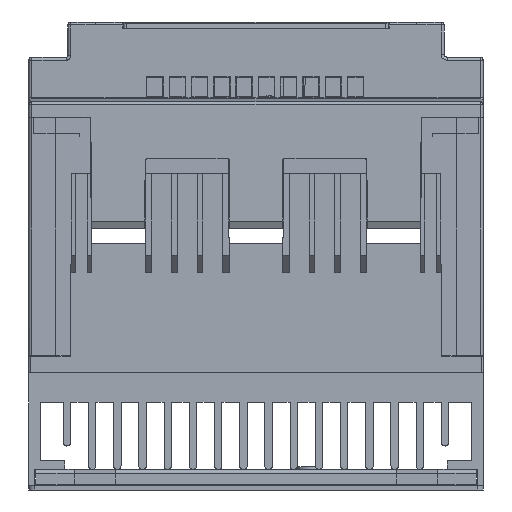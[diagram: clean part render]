
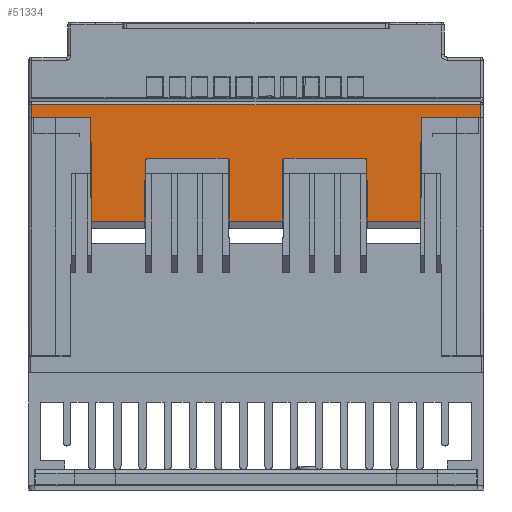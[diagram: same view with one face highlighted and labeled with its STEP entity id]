
A CAD part, front view. The second image highlights one B-rep face of the part: STEP entity #51334.
In plain terms, the highlighted planar face has unit normal (0, -1, 0.007).
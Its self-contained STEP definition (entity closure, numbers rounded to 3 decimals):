
#1702=FACE_OUTER_BOUND('',#4445,.T.);
#4445=EDGE_LOOP('',(#35888,#35889,#35890,#35891,#35892,#35893,#35894,#35895,
#35896,#35897,#35898,#35899,#35900,#35901,#35902,#35903,#35904,#35905,#35906,
#35907,#35908,#35909,#35910,#35911,#35912,#35913));
#7592=ELLIPSE('',#54479,0.5,0.5);
#7593=ELLIPSE('',#54480,0.7,0.7);
#7594=ELLIPSE('',#54481,0.7,0.7);
#7595=ELLIPSE('',#54482,0.7,0.7);
#7596=ELLIPSE('',#54483,0.7,0.7);
#7597=ELLIPSE('',#54484,0.5,0.5);
#9558=LINE('',#76437,#15452);
#9836=LINE('',#77084,#15730);
#9841=LINE('',#77095,#15735);
#9842=LINE('',#77097,#15736);
#9843=LINE('',#77099,#15737);
#9844=LINE('',#77101,#15738);
#9845=LINE('',#77103,#15739);
#9846=LINE('',#77104,#15740);
#9847=LINE('',#77108,#15741);
#9848=LINE('',#77110,#15742);
#9849=LINE('',#77112,#15743);
#9850=LINE('',#77116,#15744);
#9851=LINE('',#77120,#15745);
#9852=LINE('',#77122,#15746);
#9853=LINE('',#77124,#15747);
#9854=LINE('',#77128,#15748);
#9855=LINE('',#77132,#15749);
#9856=LINE('',#77134,#15750);
#9857=LINE('',#77136,#15751);
#9858=LINE('',#77139,#15752);
#15452=VECTOR('',#60923,10.);
#15730=VECTOR('',#61505,11.584);
#15735=VECTOR('',#61514,7.991);
#15736=VECTOR('',#61515,4.54);
#15737=VECTOR('',#61516,153.);
#15738=VECTOR('',#61517,4.54);
#15739=VECTOR('',#61518,7.991);
#15740=VECTOR('',#61519,11.584);
#15741=VECTOR('',#61522,34.576);
#15742=VECTOR('',#61523,18.225);
#15743=VECTOR('',#61524,20.719);
#15744=VECTOR('',#61527,27.297);
#15745=VECTOR('',#61530,20.719);
#15746=VECTOR('',#61531,18.122);
#15747=VECTOR('',#61532,20.719);
#15748=VECTOR('',#61535,27.297);
#15749=VECTOR('',#61538,20.719);
#15750=VECTOR('',#61539,18.225);
#15751=VECTOR('',#61540,34.576);
#15752=VECTOR('',#61543,10.);
#21428=VERTEX_POINT('',#76434);
#21429=VERTEX_POINT('',#76436);
#21645=VERTEX_POINT('',#77082);
#21646=VERTEX_POINT('',#77083);
#21650=VERTEX_POINT('',#77094);
#21651=VERTEX_POINT('',#77096);
#21652=VERTEX_POINT('',#77098);
#21653=VERTEX_POINT('',#77100);
#21654=VERTEX_POINT('',#77102);
#21655=VERTEX_POINT('',#77105);
#21656=VERTEX_POINT('',#77107);
#21657=VERTEX_POINT('',#77109);
#21658=VERTEX_POINT('',#77111);
#21659=VERTEX_POINT('',#77113);
#21660=VERTEX_POINT('',#77115);
#21661=VERTEX_POINT('',#77117);
#21662=VERTEX_POINT('',#77119);
#21663=VERTEX_POINT('',#77121);
#21664=VERTEX_POINT('',#77123);
#21665=VERTEX_POINT('',#77125);
#21666=VERTEX_POINT('',#77127);
#21667=VERTEX_POINT('',#77129);
#21668=VERTEX_POINT('',#77131);
#21669=VERTEX_POINT('',#77133);
#21670=VERTEX_POINT('',#77135);
#21671=VERTEX_POINT('',#77137);
#26669=EDGE_CURVE('',#21429,#21428,#9558,.T.);
#26995=EDGE_CURVE('',#21645,#21646,#9836,.T.);
#27001=EDGE_CURVE('',#21646,#21650,#9841,.T.);
#27002=EDGE_CURVE('',#21651,#21650,#9842,.T.);
#27003=EDGE_CURVE('',#21652,#21651,#9843,.T.);
#27004=EDGE_CURVE('',#21653,#21652,#9844,.T.);
#27005=EDGE_CURVE('',#21654,#21653,#9845,.T.);
#27006=EDGE_CURVE('',#21429,#21654,#9846,.T.);
#27007=EDGE_CURVE('',#21655,#21428,#7592,.T.);
#27008=EDGE_CURVE('',#21656,#21655,#9847,.T.);
#27009=EDGE_CURVE('',#21656,#21657,#9848,.T.);
#27010=EDGE_CURVE('',#21657,#21658,#9849,.T.);
#27011=EDGE_CURVE('',#21659,#21658,#7593,.T.);
#27012=EDGE_CURVE('',#21659,#21660,#9850,.T.);
#27013=EDGE_CURVE('',#21661,#21660,#7594,.T.);
#27014=EDGE_CURVE('',#21662,#21661,#9851,.T.);
#27015=EDGE_CURVE('',#21662,#21663,#9852,.T.);
#27016=EDGE_CURVE('',#21663,#21664,#9853,.T.);
#27017=EDGE_CURVE('',#21665,#21664,#7595,.T.);
#27018=EDGE_CURVE('',#21665,#21666,#9854,.T.);
#27019=EDGE_CURVE('',#21667,#21666,#7596,.T.);
#27020=EDGE_CURVE('',#21668,#21667,#9855,.T.);
#27021=EDGE_CURVE('',#21668,#21669,#9856,.T.);
#27022=EDGE_CURVE('',#21669,#21670,#9857,.T.);
#27023=EDGE_CURVE('',#21671,#21670,#7597,.T.);
#27024=EDGE_CURVE('',#21671,#21645,#9858,.T.);
#35888=ORIENTED_EDGE('',*,*,#26995,.T.);
#35889=ORIENTED_EDGE('',*,*,#27001,.T.);
#35890=ORIENTED_EDGE('',*,*,#27002,.F.);
#35891=ORIENTED_EDGE('',*,*,#27003,.F.);
#35892=ORIENTED_EDGE('',*,*,#27004,.F.);
#35893=ORIENTED_EDGE('',*,*,#27005,.F.);
#35894=ORIENTED_EDGE('',*,*,#27006,.F.);
#35895=ORIENTED_EDGE('',*,*,#26669,.T.);
#35896=ORIENTED_EDGE('',*,*,#27007,.F.);
#35897=ORIENTED_EDGE('',*,*,#27008,.F.);
#35898=ORIENTED_EDGE('',*,*,#27009,.T.);
#35899=ORIENTED_EDGE('',*,*,#27010,.T.);
#35900=ORIENTED_EDGE('',*,*,#27011,.F.);
#35901=ORIENTED_EDGE('',*,*,#27012,.T.);
#35902=ORIENTED_EDGE('',*,*,#27013,.F.);
#35903=ORIENTED_EDGE('',*,*,#27014,.F.);
#35904=ORIENTED_EDGE('',*,*,#27015,.T.);
#35905=ORIENTED_EDGE('',*,*,#27016,.T.);
#35906=ORIENTED_EDGE('',*,*,#27017,.F.);
#35907=ORIENTED_EDGE('',*,*,#27018,.T.);
#35908=ORIENTED_EDGE('',*,*,#27019,.F.);
#35909=ORIENTED_EDGE('',*,*,#27020,.F.);
#35910=ORIENTED_EDGE('',*,*,#27021,.T.);
#35911=ORIENTED_EDGE('',*,*,#27022,.T.);
#35912=ORIENTED_EDGE('',*,*,#27023,.F.);
#35913=ORIENTED_EDGE('',*,*,#27024,.T.);
#46490=PLANE('',#54478);
#51334=ADVANCED_FACE('',(#1702),#46490,.F.);
#54478=AXIS2_PLACEMENT_3D('',#77093,#61512,#61513);
#54479=AXIS2_PLACEMENT_3D('',#77106,#61520,#61521);
#54480=AXIS2_PLACEMENT_3D('',#77114,#61525,#61526);
#54481=AXIS2_PLACEMENT_3D('',#77118,#61528,#61529);
#54482=AXIS2_PLACEMENT_3D('',#77126,#61533,#61534);
#54483=AXIS2_PLACEMENT_3D('',#77130,#61536,#61537);
#54484=AXIS2_PLACEMENT_3D('',#77138,#61541,#61542);
#60923=DIRECTION('',(1.,0.,0.));
#61505=DIRECTION('',(1.,0.,0.));
#61512=DIRECTION('center_axis',(0.,1.,-0.007));
#61513=DIRECTION('ref_axis',(-1.,0.,0.));
#61514=DIRECTION('',(1.,0.,0.));
#61515=DIRECTION('',(0.,-0.009,-1.));
#61516=DIRECTION('',(1.,0.,0.));
#61517=DIRECTION('',(0.,0.009,1.));
#61518=DIRECTION('',(-1.,0.,0.));
#61519=DIRECTION('',(-1.,0.,0.));
#61520=DIRECTION('center_axis',(0.,-1.,0.007));
#61521=DIRECTION('ref_axis',(0.,0.007,1.));
#61522=DIRECTION('',(-0.005,0.007,1.));
#61523=DIRECTION('',(1.,0.,0.));
#61524=DIRECTION('',(0.004,0.007,1.));
#61525=DIRECTION('center_axis',(0.,-1.,0.007));
#61526=DIRECTION('ref_axis',(0.,0.007,1.));
#61527=DIRECTION('',(1.,0.,0.));
#61528=DIRECTION('center_axis',(0.,-1.,0.007));
#61529=DIRECTION('ref_axis',(0.,0.007,1.));
#61530=DIRECTION('',(-0.004,0.007,1.));
#61531=DIRECTION('',(1.,0.,0.));
#61532=DIRECTION('',(0.004,0.007,1.));
#61533=DIRECTION('center_axis',(0.,-1.,0.007));
#61534=DIRECTION('ref_axis',(0.,0.007,1.));
#61535=DIRECTION('',(1.,0.,0.));
#61536=DIRECTION('center_axis',(0.,-1.,0.007));
#61537=DIRECTION('ref_axis',(0.,-0.007,-1.));
#61538=DIRECTION('',(-0.004,0.007,1.));
#61539=DIRECTION('',(1.,0.,0.));
#61540=DIRECTION('',(0.005,0.007,1.));
#61541=DIRECTION('center_axis',(0.,-1.,0.007));
#61542=DIRECTION('ref_axis',(0.,-0.007,-1.));
#61543=DIRECTION('',(1.,0.,0.));
#76434=CARTESIAN_POINT('',(-406.825,-135.067,70.3));
#76436=CARTESIAN_POINT('',(-406.925,-135.074,70.3));
#76437=CARTESIAN_POINT('',(-350.,-135.067,70.3));
#77082=CARTESIAN_POINT('',(-293.075,-135.074,70.3));
#77083=CARTESIAN_POINT('',(-281.491,-135.077,70.3));
#77084=CARTESIAN_POINT('',(-293.075,-135.074,70.3));
#77093=CARTESIAN_POINT('Origin',(-350.,-135.174,54.962));
#77094=CARTESIAN_POINT('',(-273.5,-135.074,70.3));
#77095=CARTESIAN_POINT('',(-281.491,-135.077,70.3));
#77096=CARTESIAN_POINT('',(-273.5,-135.036,74.84));
#77097=CARTESIAN_POINT('',(-273.5,-135.036,74.84));
#77098=CARTESIAN_POINT('',(-426.5,-135.036,74.84));
#77099=CARTESIAN_POINT('',(-426.5,-135.036,74.84));
#77100=CARTESIAN_POINT('',(-426.5,-135.074,70.3));
#77101=CARTESIAN_POINT('',(-426.5,-135.074,70.3));
#77102=CARTESIAN_POINT('',(-418.509,-135.077,70.3));
#77103=CARTESIAN_POINT('',(-418.509,-135.077,70.3));
#77104=CARTESIAN_POINT('',(-406.925,-135.074,70.3));
#77105=CARTESIAN_POINT('',(-406.345,-135.072,69.659));
#77106=CARTESIAN_POINT('Origin',(-406.825,-135.071,69.8));
#77107=CARTESIAN_POINT('',(-406.164,-135.313,35.085));
#77108=CARTESIAN_POINT('',(-406.164,-135.313,35.085));
#77109=CARTESIAN_POINT('',(-387.939,-135.313,35.085));
#77110=CARTESIAN_POINT('',(-406.164,-135.313,35.085));
#77111=CARTESIAN_POINT('',(-387.848,-135.169,55.803));
#77112=CARTESIAN_POINT('',(-387.939,-135.313,35.085));
#77113=CARTESIAN_POINT('',(-387.148,-135.164,56.5));
#77114=CARTESIAN_POINT('Origin',(-387.148,-135.169,55.8));
#77115=CARTESIAN_POINT('',(-359.852,-135.164,56.5));
#77116=CARTESIAN_POINT('',(-387.148,-135.164,56.5));
#77117=CARTESIAN_POINT('',(-359.152,-135.169,55.803));
#77118=CARTESIAN_POINT('Origin',(-359.852,-135.169,55.8));
#77119=CARTESIAN_POINT('',(-359.061,-135.313,35.085));
#77120=CARTESIAN_POINT('',(-359.061,-135.313,35.085));
#77121=CARTESIAN_POINT('',(-340.939,-135.313,35.085));
#77122=CARTESIAN_POINT('',(-359.061,-135.313,35.085));
#77123=CARTESIAN_POINT('',(-340.848,-135.169,55.803));
#77124=CARTESIAN_POINT('',(-340.939,-135.313,35.085));
#77125=CARTESIAN_POINT('',(-340.148,-135.164,56.5));
#77126=CARTESIAN_POINT('Origin',(-340.148,-135.169,55.8));
#77127=CARTESIAN_POINT('',(-312.852,-135.164,56.5));
#77128=CARTESIAN_POINT('',(-340.148,-135.164,56.5));
#77129=CARTESIAN_POINT('',(-312.152,-135.169,55.803));
#77130=CARTESIAN_POINT('Origin',(-312.852,-135.169,55.8));
#77131=CARTESIAN_POINT('',(-312.061,-135.313,35.085));
#77132=CARTESIAN_POINT('',(-312.061,-135.313,35.085));
#77133=CARTESIAN_POINT('',(-293.836,-135.313,35.085));
#77134=CARTESIAN_POINT('',(-312.061,-135.313,35.085));
#77135=CARTESIAN_POINT('',(-293.655,-135.072,69.659));
#77136=CARTESIAN_POINT('',(-293.836,-135.313,35.085));
#77137=CARTESIAN_POINT('',(-293.175,-135.067,70.3));
#77138=CARTESIAN_POINT('Origin',(-293.175,-135.071,69.8));
#77139=CARTESIAN_POINT('',(-350.,-135.067,70.3));
